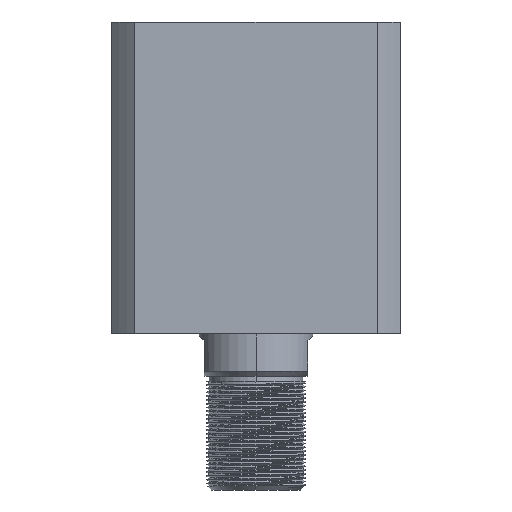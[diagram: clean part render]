
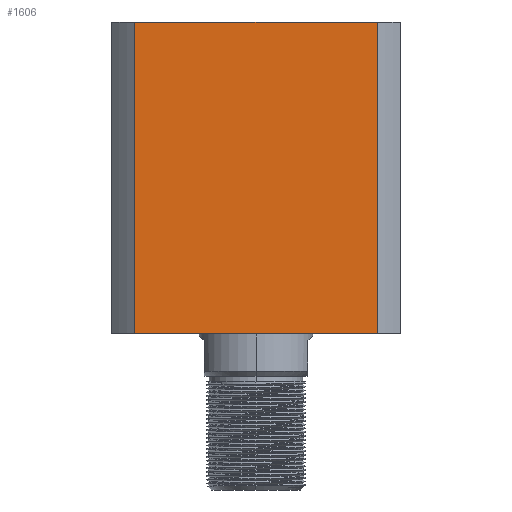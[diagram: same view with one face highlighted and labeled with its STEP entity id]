
A CAD part, front view. The second image highlights one B-rep face of the part: STEP entity #1606.
In plain terms, the highlighted planar face has unit normal (0, -1, 0) as drawn and (1, 0, 0) by its records, which use the part's own axes.
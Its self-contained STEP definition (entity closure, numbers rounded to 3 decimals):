
#1000 = DIRECTION ( 'NONE',  ( 0., -1., 0. ) ) ;
#1175 = EDGE_CURVE ( 'NONE', #3181, #17308, #2624, .T. ) ;
#1606 = ADVANCED_FACE ( 'NONE', ( #13298 ), #8934, .F. ) ;
#1842 = CARTESIAN_POINT ( 'NONE',  ( 57., -47.971, 0. ) ) ;
#2387 = ORIENTED_EDGE ( 'NONE', *, *, #20289, .F. ) ;
#2443 = ORIENTED_EDGE ( 'NONE', *, *, #1175, .T. ) ;
#2624 = LINE ( 'NONE', #17474, #7375 ) ;
#2886 = VECTOR ( 'NONE', #9073, 1000. ) ;
#2909 = VECTOR ( 'NONE', #5155, 1000. ) ;
#3181 = VERTEX_POINT ( 'NONE', #1842 ) ;
#3880 = ORIENTED_EDGE ( 'NONE', *, *, #5116, .F. ) ;
#4401 = CARTESIAN_POINT ( 'NONE',  ( 57., 57., 123. ) ) ;
#5116 = EDGE_CURVE ( 'NONE', #16358, #17308, #12351, .T. ) ;
#5155 = DIRECTION ( 'NONE',  ( 0., 0., 1. ) ) ;
#5159 = EDGE_CURVE ( 'NONE', #3181, #17097, #15534, .T. ) ;
#7375 = VECTOR ( 'NONE', #14317, 1000. ) ;
#8161 = CARTESIAN_POINT ( 'NONE',  ( 57., 47.971, -177. ) ) ;
#8934 = PLANE ( 'NONE',  #12616 ) ;
#9073 = DIRECTION ( 'NONE',  ( 0., 1., 0. ) ) ;
#9759 = DIRECTION ( 'NONE',  ( 0., 0., -1. ) ) ;
#9879 = ORIENTED_EDGE ( 'NONE', *, *, #5159, .F. ) ;
#10532 = DIRECTION ( 'NONE',  ( -1., 0., 0. ) ) ;
#11866 = VECTOR ( 'NONE', #9759, 1000. ) ;
#12351 = LINE ( 'NONE', #8161, #11866 ) ;
#12616 = AXIS2_PLACEMENT_3D ( 'NONE', #19952, #10532, #1000 ) ;
#12677 = EDGE_LOOP ( 'NONE', ( #9879, #2443, #3880, #2387 ) ) ;
#13015 = CARTESIAN_POINT ( 'NONE',  ( 57., 47.971, 123. ) ) ;
#13298 = FACE_OUTER_BOUND ( 'NONE', #12677, .T. ) ;
#14317 = DIRECTION ( 'NONE',  ( 0., 1., 0. ) ) ;
#14632 = CARTESIAN_POINT ( 'NONE',  ( 57., -47.971, -177. ) ) ;
#15186 = CARTESIAN_POINT ( 'NONE',  ( 57., 47.971, 0. ) ) ;
#15534 = LINE ( 'NONE', #14632, #2909 ) ;
#16000 = LINE ( 'NONE', #4401, #2886 ) ;
#16358 = VERTEX_POINT ( 'NONE', #13015 ) ;
#17097 = VERTEX_POINT ( 'NONE', #19539 ) ;
#17308 = VERTEX_POINT ( 'NONE', #15186 ) ;
#17474 = CARTESIAN_POINT ( 'NONE',  ( 57., 57., 0. ) ) ;
#19539 = CARTESIAN_POINT ( 'NONE',  ( 57., -47.971, 123. ) ) ;
#19952 = CARTESIAN_POINT ( 'NONE',  ( 57., 57., 123. ) ) ;
#20289 = EDGE_CURVE ( 'NONE', #17097, #16358, #16000, .T. ) ;
